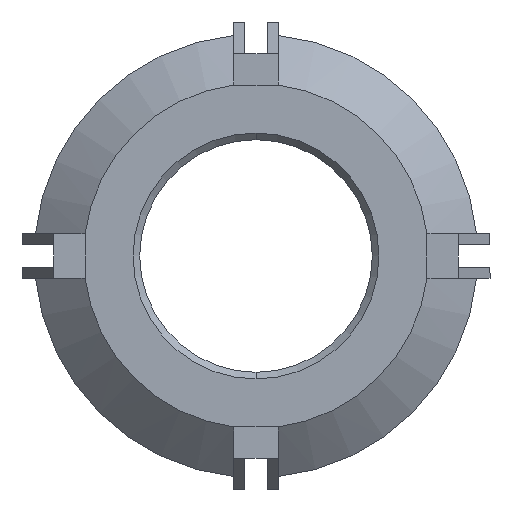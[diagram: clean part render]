
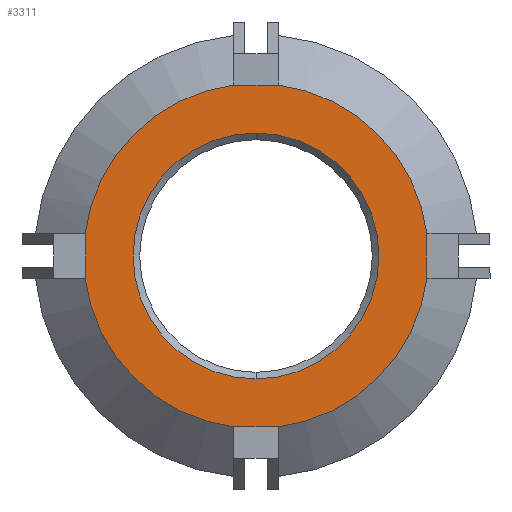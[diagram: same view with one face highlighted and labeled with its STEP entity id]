
A CAD part, front view. The second image highlights one B-rep face of the part: STEP entity #3311.
In plain terms, the highlighted planar face has unit normal (0, -1, 0).
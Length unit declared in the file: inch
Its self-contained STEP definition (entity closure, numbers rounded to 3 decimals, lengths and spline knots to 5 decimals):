
#69 = EDGE_CURVE ( 'NONE', #1210, #1190, #2462, .T. ) ;
#83 = ORIENTED_EDGE ( 'NONE', *, *, #3321, .F. ) ;
#168 = DIRECTION ( 'NONE',  ( -1., 0., 0. ) ) ;
#188 = LINE ( 'NONE', #280, #3471 ) ;
#229 = VERTEX_POINT ( 'NONE', #1838 ) ;
#241 = AXIS2_PLACEMENT_3D ( 'NONE', #2359, #2021, #3149 ) ;
#280 = CARTESIAN_POINT ( 'NONE',  ( 0.12055, 0., -0.01562 ) ) ;
#389 = VECTOR ( 'NONE', #1026, 39.37008 ) ;
#463 = DIRECTION ( 'NONE',  ( 0., -1., 0. ) ) ;
#552 = ORIENTED_EDGE ( 'NONE', *, *, #2855, .T. ) ;
#723 = EDGE_CURVE ( 'NONE', #3313, #1384, #3176, .T. ) ;
#780 = VECTOR ( 'NONE', #3001, 39.37008 ) ;
#785 = CIRCLE ( 'NONE', #3620, 0.08669 ) ;
#906 = CARTESIAN_POINT ( 'NONE',  ( 0., 0., 0. ) ) ;
#1014 = CARTESIAN_POINT ( 'NONE',  ( -0.12055, 0., 0.01562 ) ) ;
#1026 = DIRECTION ( 'NONE',  ( 1., 0., 0. ) ) ;
#1030 = FACE_BOUND ( 'NONE', #3021, .T. ) ;
#1049 = ORIENTED_EDGE ( 'NONE', *, *, #723, .T. ) ;
#1100 = ORIENTED_EDGE ( 'NONE', *, *, #2414, .F. ) ;
#1136 = CARTESIAN_POINT ( 'NONE',  ( -0.12055, 0., -0.01563 ) ) ;
#1139 = CIRCLE ( 'NONE', #241, 0.12156 ) ;
#1175 = CARTESIAN_POINT ( 'NONE',  ( 0., 0., 0.08669 ) ) ;
#1190 = VERTEX_POINT ( 'NONE', #3368 ) ;
#1210 = VERTEX_POINT ( 'NONE', #1635 ) ;
#1214 = DIRECTION ( 'NONE',  ( 0., -1., 0. ) ) ;
#1232 = DIRECTION ( 'NONE',  ( 0., 0., -1. ) ) ;
#1269 = EDGE_CURVE ( 'NONE', #2026, #1384, #188, .T. ) ;
#1384 = VERTEX_POINT ( 'NONE', #2279 ) ;
#1394 = ORIENTED_EDGE ( 'NONE', *, *, #2051, .F. ) ;
#1462 = ORIENTED_EDGE ( 'NONE', *, *, #69, .T. ) ;
#1487 = CARTESIAN_POINT ( 'NONE',  ( -0.01562, 0., -0.12055 ) ) ;
#1607 = CARTESIAN_POINT ( 'NONE',  ( 0., 0., 0. ) ) ;
#1634 = ORIENTED_EDGE ( 'NONE', *, *, #2295, .T. ) ;
#1635 = CARTESIAN_POINT ( 'NONE',  ( -0.01563, 0., 0.12055 ) ) ;
#1649 = VERTEX_POINT ( 'NONE', #3019 ) ;
#1805 = VECTOR ( 'NONE', #168, 39.37008 ) ;
#1809 = ORIENTED_EDGE ( 'NONE', *, *, #3630, .T. ) ;
#1838 = CARTESIAN_POINT ( 'NONE',  ( 0., 0., -0.08669 ) ) ;
#1870 = DIRECTION ( 'NONE',  ( 0., 0., 1. ) ) ;
#1939 = CARTESIAN_POINT ( 'NONE',  ( 0.12055, 0., 0.01563 ) ) ;
#1997 = DIRECTION ( 'NONE',  ( 0., 1., 0. ) ) ;
#2021 = DIRECTION ( 'NONE',  ( 0., -1., 0. ) ) ;
#2026 = VERTEX_POINT ( 'NONE', #1939 ) ;
#2051 = EDGE_CURVE ( 'NONE', #1210, #3255, #2437, .T. ) ;
#2079 = DIRECTION ( 'NONE',  ( 0., 0., -1. ) ) ;
#2176 = ORIENTED_EDGE ( 'NONE', *, *, #1269, .F. ) ;
#2264 = CIRCLE ( 'NONE', #2726, 0.08669 ) ;
#2279 = CARTESIAN_POINT ( 'NONE',  ( 0.12055, 0., -0.01562 ) ) ;
#2288 = CARTESIAN_POINT ( 'NONE',  ( 0.01562, 0., 0.12055 ) ) ;
#2295 = EDGE_CURVE ( 'NONE', #3610, #229, #2264, .T. ) ;
#2329 = DIRECTION ( 'NONE',  ( 0., 1., 0. ) ) ;
#2359 = CARTESIAN_POINT ( 'NONE',  ( 0., 0., 0. ) ) ;
#2384 = ORIENTED_EDGE ( 'NONE', *, *, #3602, .T. ) ;
#2414 = EDGE_CURVE ( 'NONE', #3459, #1190, #3480, .T. ) ;
#2437 = LINE ( 'NONE', #3310, #389 ) ;
#2440 = LINE ( 'NONE', #1487, #1805 ) ;
#2458 = AXIS2_PLACEMENT_3D ( 'NONE', #3058, #3038, #3607 ) ;
#2462 = CIRCLE ( 'NONE', #3571, 0.12156 ) ;
#2621 = DIRECTION ( 'NONE',  ( 0., 0., 1. ) ) ;
#2632 = EDGE_LOOP ( 'NONE', ( #1462, #1100, #1809, #83, #1049, #2176, #2384, #1394 ) ) ;
#2711 = CARTESIAN_POINT ( 'NONE',  ( 0., 0., 0. ) ) ;
#2722 = DIRECTION ( 'NONE',  ( 0., 0., -1. ) ) ;
#2726 = AXIS2_PLACEMENT_3D ( 'NONE', #3187, #2329, #2621 ) ;
#2732 = AXIS2_PLACEMENT_3D ( 'NONE', #2711, #3199, #1870 ) ;
#2855 = EDGE_CURVE ( 'NONE', #229, #3610, #785, .T. ) ;
#2996 = PLANE ( 'NONE',  #2732 ) ;
#3001 = DIRECTION ( 'NONE',  ( 0., 0., 1. ) ) ;
#3019 = CARTESIAN_POINT ( 'NONE',  ( -0.01562, 0., -0.12055 ) ) ;
#3021 = EDGE_LOOP ( 'NONE', ( #552, #1634 ) ) ;
#3038 = DIRECTION ( 'NONE',  ( 0., -1., 0. ) ) ;
#3058 = CARTESIAN_POINT ( 'NONE',  ( 0., 0., 0. ) ) ;
#3125 = DIRECTION ( 'NONE',  ( 0., 0., 1. ) ) ;
#3149 = DIRECTION ( 'NONE',  ( 0., 0., -1. ) ) ;
#3176 = CIRCLE ( 'NONE', #2458, 0.12156 ) ;
#3187 = CARTESIAN_POINT ( 'NONE',  ( 0., 0., 0. ) ) ;
#3199 = DIRECTION ( 'NONE',  ( 0., 1., 0. ) ) ;
#3255 = VERTEX_POINT ( 'NONE', #2288 ) ;
#3278 = AXIS2_PLACEMENT_3D ( 'NONE', #906, #1214, #1232 ) ;
#3310 = CARTESIAN_POINT ( 'NONE',  ( 0.01562, 0., 0.12055 ) ) ;
#3311 = ADVANCED_FACE ( 'NONE', ( #1030, #3312 ), #2996, .F. ) ;
#3312 = FACE_OUTER_BOUND ( 'NONE', #2632, .T. ) ;
#3313 = VERTEX_POINT ( 'NONE', #3547 ) ;
#3321 = EDGE_CURVE ( 'NONE', #3313, #1649, #2440, .T. ) ;
#3368 = CARTESIAN_POINT ( 'NONE',  ( -0.12055, 0., 0.01562 ) ) ;
#3395 = CIRCLE ( 'NONE', #3278, 0.12156 ) ;
#3459 = VERTEX_POINT ( 'NONE', #1136 ) ;
#3471 = VECTOR ( 'NONE', #2079, 39.37008 ) ;
#3480 = LINE ( 'NONE', #1014, #780 ) ;
#3547 = CARTESIAN_POINT ( 'NONE',  ( 0.01562, 0., -0.12055 ) ) ;
#3571 = AXIS2_PLACEMENT_3D ( 'NONE', #1607, #463, #2722 ) ;
#3602 = EDGE_CURVE ( 'NONE', #2026, #3255, #1139, .T. ) ;
#3607 = DIRECTION ( 'NONE',  ( 0., 0., -1. ) ) ;
#3610 = VERTEX_POINT ( 'NONE', #1175 ) ;
#3620 = AXIS2_PLACEMENT_3D ( 'NONE', #3673, #1997, #3125 ) ;
#3630 = EDGE_CURVE ( 'NONE', #3459, #1649, #3395, .T. ) ;
#3673 = CARTESIAN_POINT ( 'NONE',  ( 0., 0., 0. ) ) ;
